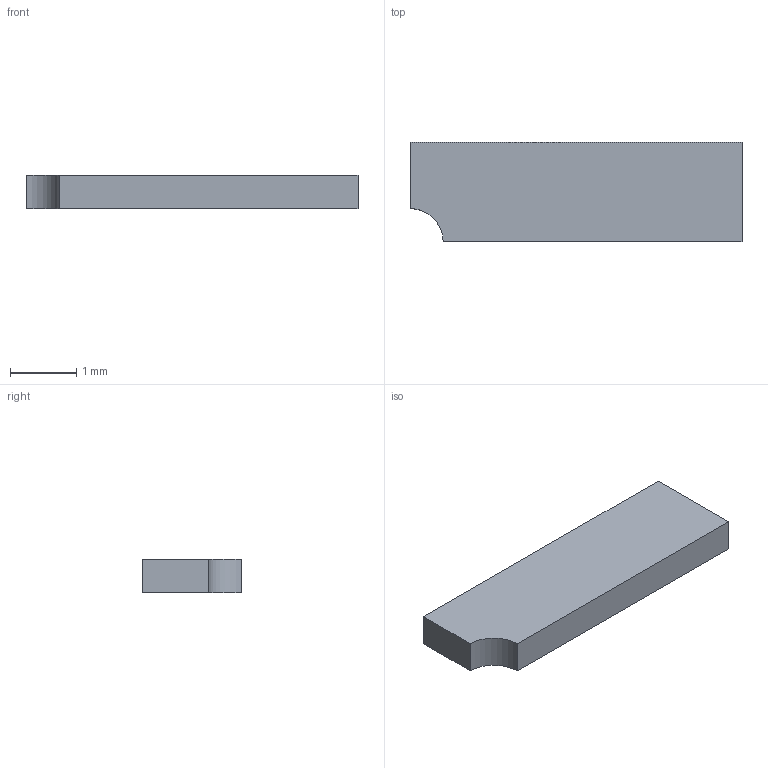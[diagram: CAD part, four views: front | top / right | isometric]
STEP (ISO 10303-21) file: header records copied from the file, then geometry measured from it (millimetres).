
FILE_DESCRIPTION(('STEP AP214'),'1');
FILE_NAME('HoleInPlate.step','2021-02-02T19:47:20',('Cubit 2020.2'),(' '),'Spatial InterOp 3D',' ',' ');
FILE_SCHEMA(('AUTOMOTIVE_DESIGN { 1 0 10303 214 1 1 1 1 }'));
Length unit declared in the file: millimetre
Products named in the file (1): 1
Bounding box: 5 x 1.5 x 0.5 mm (x, y, z)
Volume: 3.7 mm3; surface area: 21 mm2
Topology: 1 solids, 1 shells, 7 faces, 15 edges, 10 vertices
Faces by surface type: plane 6, cylinder 1
Entity records: 206 total; most frequent: CARTESIAN_POINT 33, DIRECTION 33, ORIENTED_EDGE 30, EDGE_CURVE 15, LINE 13, VECTOR 13, AXIS2_PLACEMENT_3D 10, VERTEX_POINT 10
